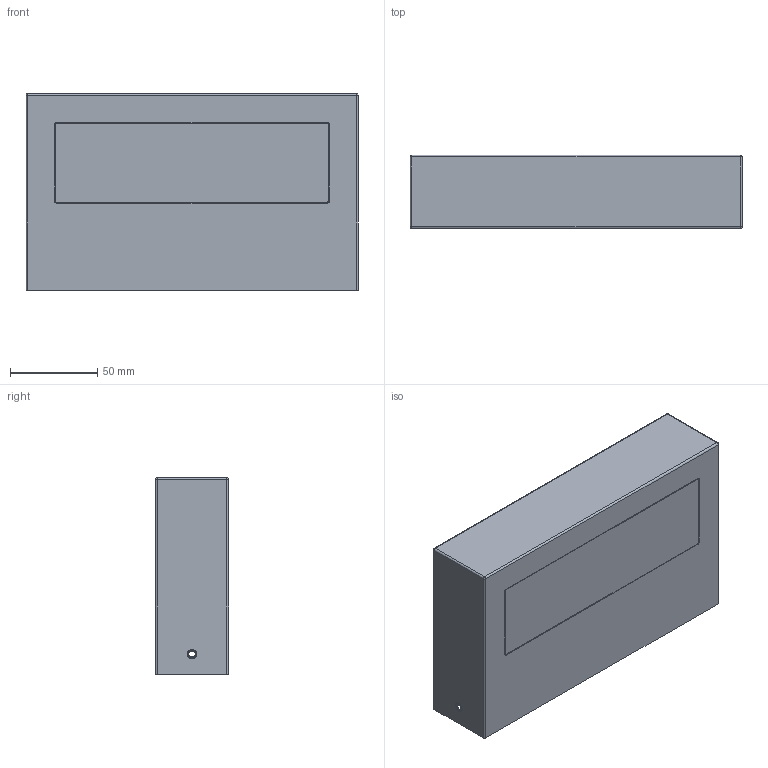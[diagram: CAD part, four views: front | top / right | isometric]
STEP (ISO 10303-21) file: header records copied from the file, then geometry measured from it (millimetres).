
FILE_DESCRIPTION((''),'2;1');
FILE_NAME('200-UP-DOWN-NEW-COB-S_SW0001','2025-06-30T10:02:48',('Piccioli'),(''),'CREO PARAMETRIC BY PTC INC, 2025010','CREO PARAMETRIC BY PTC INC, 2025010','');
FILE_SCHEMA(('CONFIG_CONTROL_DESIGN'));
Length unit declared in the file: millimetre
Products named in the file (1): 200-UP-DOWN-NEW-COB-S_SW0001
Bounding box: 190 x 42 x 112.5 mm (x, y, z)
Surface area: 124417.2 mm2 (no closed solid volume)
Topology: 0 solids, 8 shells, 159 faces, 560 edges, 396 vertices
Faces by surface type: plane 53, bspline 48, cylinder 42, sphere 8, cone 8
Entity records: 13966 total; most frequent: CARTESIAN_POINT 9797, ORIENTED_EDGE 860, DIRECTION 658, EDGE_CURVE 560, VERTEX_POINT 396, VECTOR 252, LINE 252, B_SPLINE_CURVE_WITH_KNOTS 216
